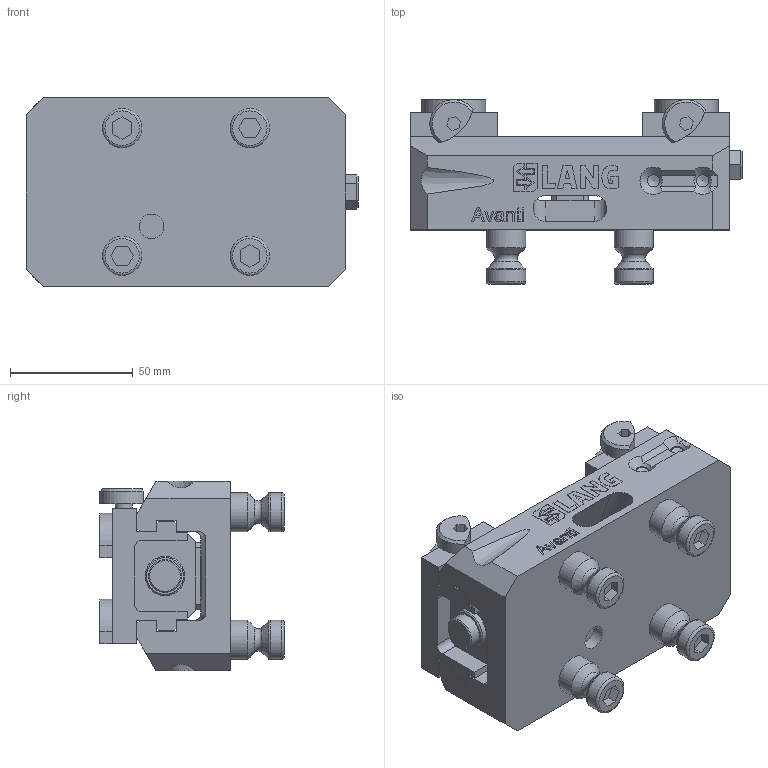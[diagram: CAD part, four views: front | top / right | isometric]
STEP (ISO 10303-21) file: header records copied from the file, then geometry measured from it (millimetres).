
FILE_DESCRIPTION (( 'STEP AP214' ), '1' );
FILE_NAME ('44120-46.STEP', '2020-02-07T15:01:11', ( '' ), ( '' ), 'SwSTEP 2.0', 'SolidWorks 2019', '' );
FILE_SCHEMA (( 'AUTOMOTIVE_DESIGN' ));
Length unit declared in the file: millimetre
Products named in the file (3): 44120-46; Avanti_44120-46; 44771-46
Assembly tree (3 placements, depth 2):
  44120-46
    Avanti_44120-46
    44771-46  x2
Bounding box: 135.11 x 75.02 x 77.2 mm (x, y, z)
Volume: 342272.3 mm3; surface area: 88552.4 mm2
Topology: 38 solids, 38 shells, 790 faces, 2008 edges, 1315 vertices
Faces by surface type: plane 581, bspline 98, cylinder 68, cone 31, torus 12
Full cylindrical faces by diameter (mm): 5 x4, 6.8 x4, 7 x2, 10 x1, 12 x8, 13.5 x1, 16 x12
Entity records: 32014 total; most frequent: CARTESIAN_POINT 7170, ORIENTED_EDGE 3504, DIRECTION 2896, EDGE_CURVE 1752, LINE 1382, VECTOR 1382, VERTEX_POINT 1187, EDGE_LOOP 829
